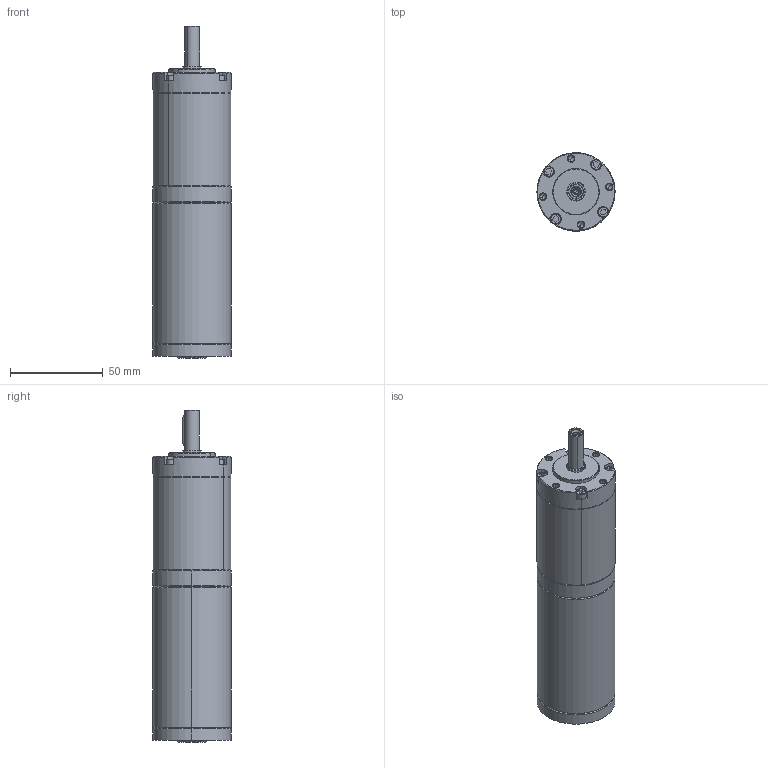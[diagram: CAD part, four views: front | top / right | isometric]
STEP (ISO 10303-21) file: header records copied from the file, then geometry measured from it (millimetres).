
FILE_DESCRIPTION (( 'STEP AP203' ), '1' );
FILE_NAME ('42BLD减速比三级整机.STEP', '2021-07-16T02:41:02', ( '' ), ( '' ), 'SwSTEP 2.0', 'SolidWorks 2021', '' );
FILE_SCHEMA (( 'CONFIG_CONTROL_DESIGN' ));
Length unit declared in the file: millimetre
Products named in the file (3): 42; 42PN三级; 42BLD减速比三级整机
Assembly tree (2 placements, depth 2):
  42BLD减速比三级整机
    42
    42PN三级
Bounding box: 42 x 42 x 178.5 mm (x, y, z)
Volume: 211425.2 mm3; surface area: 27631.4 mm2
Topology: 2 solids, 2 shells, 163 faces, 390 edges, 237 vertices
Faces by surface type: plane 60, cone 46, cylinder 45, bspline 8, torus 4
Entity records: 5079 total; most frequent: CARTESIAN_POINT 999, DIRECTION 840, ORIENTED_EDGE 760, EDGE_CURVE 380, AXIS2_PLACEMENT_3D 322, VERTEX_POINT 237, VECTOR 196, LINE 196
